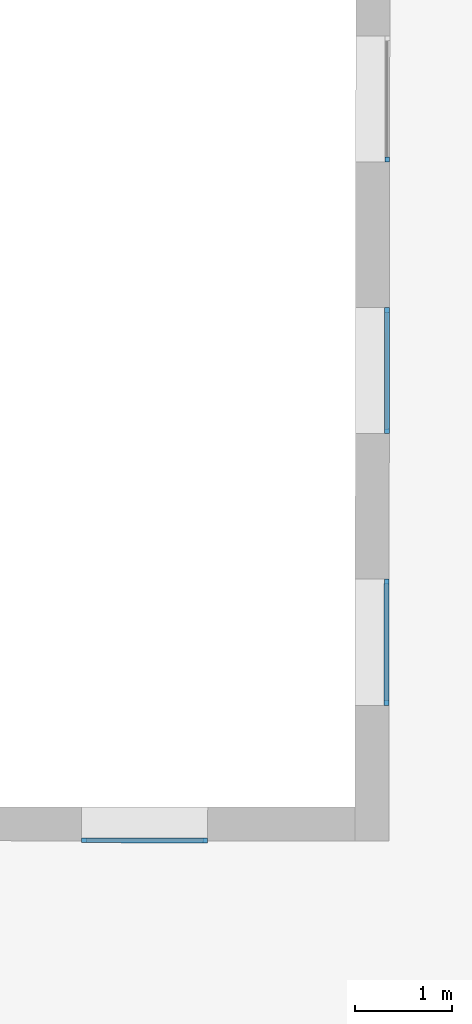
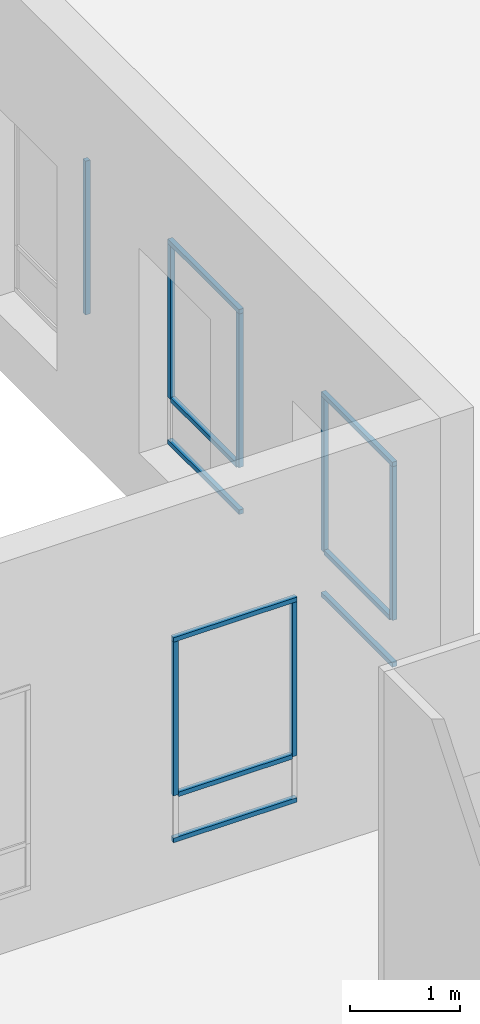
# One storey, part 8 of 35: 16 members, 4 elements without a shape of their own.
"""IFC2X3 building model written with IfcOpenShell, lengths in metres."""

from ifc_helpers import new_model, entity, si_unit, converted_unit, derived_unit, direction, frame, frame_2d, origin, origin_2d_with_axis, place, context, subcontext, project, spatial, rectangle, extrude, source, transform, mapped, material, type_object, type_shapes, element, aggregate, save


model = new_model("IFC2X3")

# Units and contexts
model_context = context("Model", 3, precision=1e-05, world=origin(), true_north=direction((6.123233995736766e-17, 1.0)))
body_context = subcontext(model_context, "Body", "Model", "MODEL_VIEW")
ifc_project = project(units=[si_unit("LENGTHUNIT", "METRE"), si_unit("AREAUNIT", "SQUARE_METRE"), converted_unit("PLANEANGLEUNIT", "DEGREE", entity("IfcPlaneAngleMeasure", 0.017453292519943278), si_unit("PLANEANGLEUNIT", "RADIAN"), dimensions=[0, 0, 0, 0, 0, 0, 0]), derived_unit("THERMALTRANSMITTANCEUNIT", [(si_unit("MASSUNIT", "GRAM", prefix="KILO"), 1), (si_unit("THERMODYNAMICTEMPERATUREUNIT", "KELVIN"), -1), (si_unit("TIMEUNIT", "SECOND"), -3)])], contexts=[model_context])

# Site, building, storey
site_placement = place(None, frame((1253.6752467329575, 2072.143113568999, 91.49999999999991), z_axis=(0.0, 0.0, 1.0), x_axis=(0.7237211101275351, 0.6900925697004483, 0.0)))
site = spatial("IfcSite", under=ifc_project, at=site_placement, Name="Surface", CompositionType="ELEMENT")
building_placement = place(site_placement, origin())
building = spatial("IfcBuilding", under=site, at=building_placement, CompositionType="ELEMENT")
storey_placement = place(building_placement, frame((0.0, 0.0, 3.549999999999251)))
storey = spatial("IfcBuildingStorey", under=building, at=storey_placement, Name="1-R+1", CompositionType="ELEMENT", Elevation=3.549999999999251)

# Curtain wall, member
curtain_wall_type = type_object("IfcCurtainWallType", Name="Mur-rideau:Menuiserie Ext 1F+1OB VERTIC", PredefinedType="NOTDEFINED")
curtain_wall_1_placement = place(storey_placement, frame((0.0, 0.0, -3.549999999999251)))
curtain_wall_1 = element("IfcCurtainWall", 1, at=curtain_wall_1_placement, inside=storey, type_object=curtain_wall_type, Name="Mur-rideau:Menuiserie Ext 1F+1OB VERTIC", ObjectType="Mur-rideau:Menuiserie Ext 1F+1OB VERTIC")
ifc_material = material(Name="OMD_Aluminium Men Ext")
member_type_1 = type_object("IfcMemberType", Name="Meneau rectangulaire:50x50", PredefinedType="MULLION", material=ifc_material)
shared_shape_1 = source(origin(), body_context, "Body", "SweptSolid", [
    extrude(rectangle(XDim=0.05, YDim=0.049999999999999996, at=origin_2d_with_axis()), frame((-0.025, 0.0, -1.2996959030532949), z_axis=(0.0, 0.0, 1.0), x_axis=(-1.0, 0.0, 0.0)), (0.0, 0.0, 1.0), 1.2996959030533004),
])
type_shapes(member_type_1, [shared_shape_1])
member_1_placement = place(curtain_wall_1_placement, frame((179.1705476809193, -10.028891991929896, 6.4499999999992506), z_axis=(0.690983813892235, 0.7228702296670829, 0.0), x_axis=(0.0, 0.0, 1.0)))
member_1 = element("IfcMember", 2, at=member_1_placement, type_object=member_type_1, material=ifc_material, Name="Meneau rectangulaire:50x50", ObjectType="Meneau rectangulaire:50x50", context=body_context, shape_type="MappedRepresentation", body=[
    mapped(shared_shape_1, transform((0.0, 0.0, 0.0), scale=1.0)),
])

curtain_wall_2_placement = place(storey_placement, frame((0.0, 0.0, -3.549999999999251)))
curtain_wall_2 = element("IfcCurtainWall", 3, at=curtain_wall_2_placement, inside=storey, type_object=curtain_wall_type, Name="Mur-rideau:Menuiserie Ext 1F+1OB VERTIC", ObjectType="Mur-rideau:Menuiserie Ext 1F+1OB VERTIC")
member_2_placement = place(curtain_wall_2_placement, frame((177.23579300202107, -12.052928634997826, 6.4499999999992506), z_axis=(0.6909838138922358, 0.7228702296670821, 0.0), x_axis=(0.0, 0.0, 1.0)))
member_2 = element("IfcMember", 4, at=member_2_placement, type_object=member_type_1, material=ifc_material, Name="Meneau rectangulaire:50x50", ObjectType="Meneau rectangulaire:50x50", context=body_context, shape_type="MappedRepresentation", body=[
    mapped(shared_shape_1, transform((0.0, 0.0, 0.0), scale=1.0)),
])

curtain_wall_3_placement = place(storey_placement, frame((0.0, 0.0, -3.549999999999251)))
curtain_wall_3 = element("IfcCurtainWall", 5, at=curtain_wall_3_placement, inside=storey, type_object=curtain_wall_type, Name="Mur-rideau:Menuiserie Ext 1F+1OB VERTIC", ObjectType="Mur-rideau:Menuiserie Ext 1F+1OB VERTIC")
member_3_placement = place(curtain_wall_3_placement, frame((173.1036651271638, -11.830181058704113, 6.4499999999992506), z_axis=(-0.7228702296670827, 0.6909838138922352, 0.0), x_axis=(0.0, 0.0, 1.0)))
member_3 = element("IfcMember", 6, at=member_3_placement, type_object=member_type_1, material=ifc_material, Name="Meneau rectangulaire:50x50", ObjectType="Meneau rectangulaire:50x50", context=body_context, shape_type="MappedRepresentation", body=[
    mapped(shared_shape_1, transform((0.0, 0.0, 0.0), scale=1.0)),
])

# Member
member_type_2 = type_object("IfcMemberType", Name="Meneau rectangulaire:50x50", PredefinedType="MULLION", material=ifc_material)
shared_shape_2 = source(origin(), body_context, "Body", "SweptSolid", [
    extrude(rectangle(XDim=0.05, YDim=0.05, at=origin_2d_with_axis()), frame((-0.025, 0.0, -1.2996959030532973), z_axis=(0.0, 0.0, 1.0), x_axis=(-1.0, 0.0, 0.0)), (0.0, 0.0, 1.0), 1.2996959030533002),
])
type_shapes(member_type_2, [shared_shape_2])
member_4_placement = place(curtain_wall_1_placement, frame((178.27247884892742, -10.968403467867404, 4.169999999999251), z_axis=(-0.690983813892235, -0.7228702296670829, 0.0), x_axis=(0.0, 0.0, -1.0)))
member_4 = element("IfcMember", 7, at=member_4_placement, type_object=member_type_2, material=ifc_material, Name="Meneau rectangulaire:50x50", ObjectType="Meneau rectangulaire:50x50", context=body_context, shape_type="MappedRepresentation", body=[
    mapped(shared_shape_2, transform((0.0, 0.0, 0.0), scale=1.0)),
])

member_5_placement = place(curtain_wall_2_placement, frame((176.33772417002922, -12.99244011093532, 4.169999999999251), z_axis=(-0.6909838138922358, -0.7228702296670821, 0.0), x_axis=(0.0, 0.0, -1.0)))
member_5 = element("IfcMember", 8, at=member_5_placement, type_object=member_type_2, material=ifc_material, Name="Meneau rectangulaire:50x50", ObjectType="Meneau rectangulaire:50x50", context=body_context, shape_type="MappedRepresentation", body=[
    mapped(shared_shape_2, transform((0.0, 0.0, 0.0), scale=1.0)),
])

member_6_placement = place(curtain_wall_3_placement, frame((174.0431766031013, -12.72824989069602, 4.169999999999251), z_axis=(0.7228702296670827, -0.6909838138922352, 0.0), x_axis=(0.0, 0.0, -1.0)))
member_6 = element("IfcMember", 9, at=member_6_placement, type_object=member_type_2, material=ifc_material, Name="Meneau rectangulaire:50x50", ObjectType="Meneau rectangulaire:50x50", context=body_context, shape_type="MappedRepresentation", body=[
    mapped(shared_shape_2, transform((0.0, 0.0, 0.0), scale=1.0)),
])

# Curtain wall, member
curtain_wall_4_placement = place(storey_placement, frame((0.0, 0.0, -3.549999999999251)))
curtain_wall_4 = element("IfcCurtainWall", 10, at=curtain_wall_4_placement, inside=storey, type_object=curtain_wall_type, Name="Mur-rideau:Menuiserie Ext 1F+1OB VERTIC", ObjectType="Mur-rideau:Menuiserie Ext 1F+1OB VERTIC")
member_type_3 = type_object("IfcMemberType", Name="Meneau rectangulaire:50x50", PredefinedType="MULLION", material=ifc_material)
shared_shape_3 = source(origin(), body_context, "Body", "SweptSolid", [
    extrude(rectangle(XDim=0.05, YDim=0.049999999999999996, at=origin_2d_with_axis()), frame((-0.025, 0.0, -1.7099999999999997), z_axis=(0.0, 0.0, 1.0), x_axis=(-1.0, 0.0, 0.0)), (0.0, 0.0, 1.0), 1.7099999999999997),
])
type_shapes(member_type_3, [shared_shape_3])
member_7_placement = place(curtain_wall_4_placement, frame((180.20723352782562, -8.944366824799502, 6.399999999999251), z_axis=(0.0, 0.0, 1.0), x_axis=(-0.6909838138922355, -0.7228702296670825, 0.0)))
member_7 = element("IfcMember", 11, at=member_7_placement, type_object=member_type_3, material=ifc_material, Name="Meneau rectangulaire:50x50", ObjectType="Meneau rectangulaire:50x50", context=body_context, shape_type="MappedRepresentation", body=[
    mapped(shared_shape_3, transform((0.0, 0.0, 0.0), scale=1.0)),
])
aggregate(curtain_wall_4, [member_7])

# Member
member_8_placement = place(curtain_wall_1_placement, frame((178.27247884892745, -10.968403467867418, 6.399999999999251), z_axis=(0.0, 0.0, 1.0), x_axis=(-0.6909838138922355, -0.7228702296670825, 0.0)))
member_8 = element("IfcMember", 12, at=member_8_placement, type_object=member_type_3, material=ifc_material, Name="Meneau rectangulaire:50x50", ObjectType="Meneau rectangulaire:50x50", context=body_context, shape_type="MappedRepresentation", body=[
    mapped(shared_shape_3, transform((0.0, 0.0, 0.0), scale=1.0)),
])

member_9_placement = place(curtain_wall_2_placement, frame((176.33772417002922, -12.992440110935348, 6.399999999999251), z_axis=(0.0, 0.0, 1.0), x_axis=(-0.6909838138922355, -0.7228702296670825, 0.0)))
member_9 = element("IfcMember", 13, at=member_9_placement, type_object=member_type_3, material=ifc_material, Name="Meneau rectangulaire:50x50", ObjectType="Meneau rectangulaire:50x50", context=body_context, shape_type="MappedRepresentation", body=[
    mapped(shared_shape_3, transform((0.0, 0.0, 0.0), scale=1.0)),
])

member_10_placement = place(curtain_wall_3_placement, frame((174.0431766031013, -12.72824989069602, 6.399999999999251), z_axis=(0.0, 0.0, 1.0), x_axis=(0.7228702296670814, -0.6909838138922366, 0.0)))
member_10 = element("IfcMember", 14, at=member_10_placement, type_object=member_type_3, material=ifc_material, Name="Meneau rectangulaire:50x50", ObjectType="Meneau rectangulaire:50x50", context=body_context, shape_type="MappedRepresentation", body=[
    mapped(shared_shape_3, transform((0.0, 0.0, 0.0), scale=1.0)),
])

member_type_4 = type_object("IfcMemberType", Name="Meneau rectangulaire:50x50", PredefinedType="MULLION", material=ifc_material)
shared_shape_4 = source(origin(), body_context, "Body", "SweptSolid", [
    extrude(rectangle(XDim=0.05, YDim=0.049999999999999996, at=origin_2d_with_axis()), frame((-0.025, 0.0, -1.7099999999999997), z_axis=(0.0, 0.0, 1.0), x_axis=(-1.0, 0.0, 0.0)), (0.0, 0.0, 1.0), 1.7099999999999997),
])
type_shapes(member_type_4, [shared_shape_4])
member_11_placement = place(curtain_wall_1_placement, frame((179.1705476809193, -10.02889199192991, 4.689999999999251), z_axis=(0.0, 0.0, -1.0), x_axis=(0.6909838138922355, 0.7228702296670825, 0.0)))
member_11 = element("IfcMember", 15, at=member_11_placement, type_object=member_type_4, material=ifc_material, Name="Meneau rectangulaire:50x50", ObjectType="Meneau rectangulaire:50x50", context=body_context, shape_type="MappedRepresentation", body=[
    mapped(shared_shape_4, transform((0.0, 0.0, 0.0), scale=1.0)),
])

member_12_placement = place(curtain_wall_2_placement, frame((177.2357930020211, -12.05292863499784, 4.689999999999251), z_axis=(0.0, 0.0, -1.0), x_axis=(0.6909838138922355, 0.7228702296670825, 0.0)))
member_12 = element("IfcMember", 16, at=member_12_placement, type_object=member_type_4, material=ifc_material, Name="Meneau rectangulaire:50x50", ObjectType="Meneau rectangulaire:50x50", context=body_context, shape_type="MappedRepresentation", body=[
    mapped(shared_shape_4, transform((0.0, 0.0, 0.0), scale=1.0)),
])

member_13_placement = place(curtain_wall_3_placement, frame((173.1036651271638, -11.830181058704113, 4.689999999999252), z_axis=(0.0, 0.0, -1.0), x_axis=(-0.7228702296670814, 0.6909838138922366, 0.0)))
member_13 = element("IfcMember", 17, at=member_13_placement, type_object=member_type_4, material=ifc_material, Name="Meneau rectangulaire:50x50", ObjectType="Meneau rectangulaire:50x50", context=body_context, shape_type="MappedRepresentation", body=[
    mapped(shared_shape_4, transform((0.0, 0.0, 0.0), scale=1.0)),
])

member_type_5 = type_object("IfcMemberType", Name="Meneau rectangulaire:50x50", PredefinedType="MULLION", material=ifc_material)
shared_shape_5 = source(origin(), body_context, "Body", "SweptSolid", [
    extrude(rectangle(XDim=0.05, YDim=0.05, at=frame_2d((0.0, -1.734723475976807e-18), x_axis=(1.0, 0.0))), frame((0.0, 0.0, -1.1996959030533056), z_axis=(0.0, 0.0, 1.0), x_axis=(-1.0, 0.0, 0.0)), (0.0, 0.0, 1.0), 1.1996959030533),
])
type_shapes(member_type_5, [shared_shape_5])
member_14_placement = place(curtain_wall_1_placement, frame((179.13599849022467, -10.065035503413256, 4.689999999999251), z_axis=(0.690983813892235, 0.7228702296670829, 0.0), x_axis=(0.0, 0.0, 1.0)))
member_14 = element("IfcMember", 18, at=member_14_placement, type_object=member_type_5, material=ifc_material, Name="Meneau rectangulaire:50x50", ObjectType="Meneau rectangulaire:50x50", context=body_context, shape_type="MappedRepresentation", body=[
    mapped(shared_shape_5, transform((0.0, 0.0, 0.0), scale=1.0)),
])

aggregate(curtain_wall_1, [member_1, member_4, member_8, member_11, member_14])

member_15_placement = place(curtain_wall_2_placement, frame((177.2012438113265, -12.089072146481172, 4.689999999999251), z_axis=(0.6909838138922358, 0.7228702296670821, 0.0), x_axis=(0.0, 0.0, 1.0)))
member_15 = element("IfcMember", 19, at=member_15_placement, type_object=member_type_5, material=ifc_material, Name="Meneau rectangulaire:50x50", ObjectType="Meneau rectangulaire:50x50", context=body_context, shape_type="MappedRepresentation", body=[
    mapped(shared_shape_5, transform((0.0, 0.0, 0.0), scale=1.0)),
])

aggregate(curtain_wall_2, [member_2, member_5, member_9, member_12, member_15])

member_16_placement = place(curtain_wall_3_placement, frame((173.13980863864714, -11.864730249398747, 4.689999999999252), z_axis=(-0.7228702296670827, 0.6909838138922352, 0.0), x_axis=(0.0, 0.0, 1.0)))
member_16 = element("IfcMember", 20, at=member_16_placement, type_object=member_type_5, material=ifc_material, Name="Meneau rectangulaire:50x50", ObjectType="Meneau rectangulaire:50x50", context=body_context, shape_type="MappedRepresentation", body=[
    mapped(shared_shape_5, transform((0.0, 0.0, 0.0), scale=1.0)),
])

aggregate(curtain_wall_3, [member_3, member_6, member_10, member_13, member_16])

save(model, "model.ifc")
